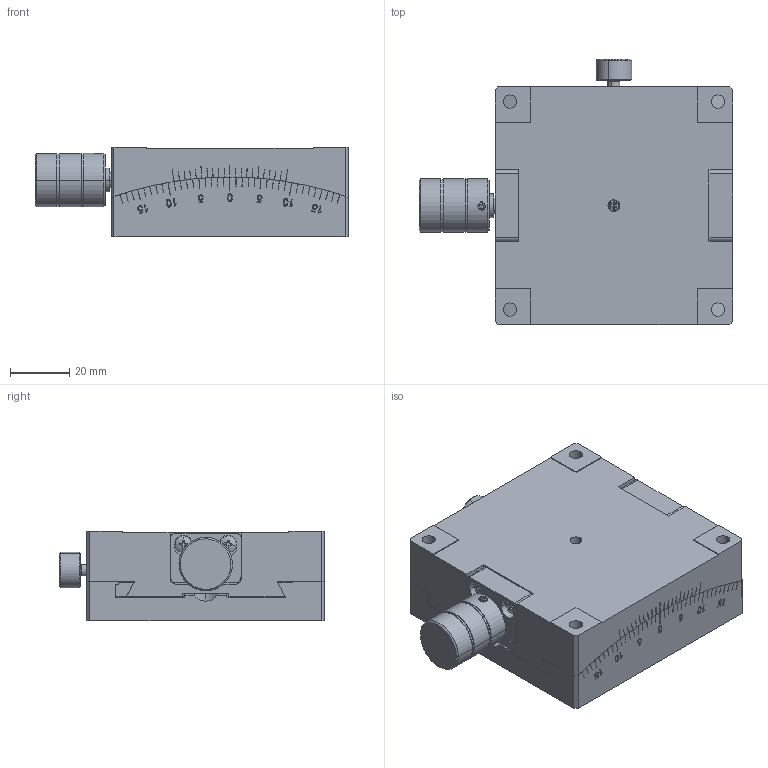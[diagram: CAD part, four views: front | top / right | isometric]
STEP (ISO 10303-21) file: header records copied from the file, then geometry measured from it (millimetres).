
FILE_DESCRIPTION (( 'STEP AP203' ), '1' );
FILE_NAME ('BFSG80-100.STEP', '2024-07-30T03:15:55', ( '微软用户' ), ( '微软中国' ), 'SwSTEP 2.0', 'SolidWorks 2024', '' );
FILE_SCHEMA (( 'CONFIG_CONTROL_DESIGN' ));
Products named in the file (1): BFSG80-100
Bounding box: 105.5 x 89.22 x 30 mm (x, y, z)
Volume: 187161 mm3; surface area: 55522.7 mm2
Topology: 16 solids, 16 shells, 1121 faces, 3678 edges, 2435 vertices
Faces by surface type: plane 483, cylinder 261, torus 173, sphere 98, cone 65, bspline 41
Entity records: 59038 total; most frequent: CARTESIAN_POINT 29301, ORIENTED_EDGE 6740, DIRECTION 5717, EDGE_CURVE 3370, VERTEX_POINT 2255, AXIS2_PLACEMENT_3D 2152, VECTOR 1413, LINE 1413
